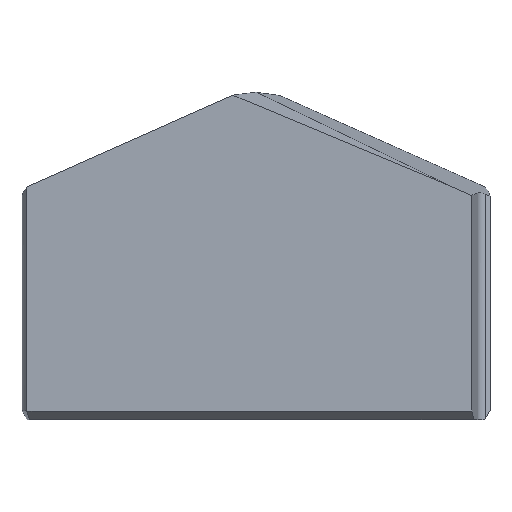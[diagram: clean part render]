
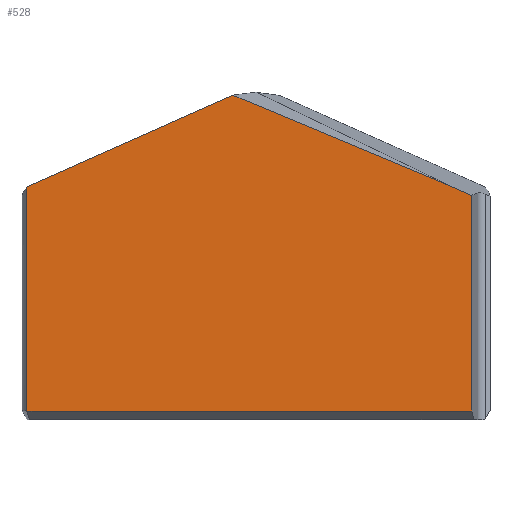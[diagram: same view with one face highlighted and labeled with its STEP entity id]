
A CAD part, top view. The second image highlights one B-rep face of the part: STEP entity #528.
In plain terms, the highlighted planar face has unit normal (0, 0, 1).
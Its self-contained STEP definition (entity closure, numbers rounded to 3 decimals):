
#7 = VECTOR ( 'NONE', #185, 1000. ) ;
#9 = CARTESIAN_POINT ( 'NONE',  ( 3.796, 9.091, 3.2 ) ) ;
#12 = CARTESIAN_POINT ( 'NONE',  ( -7.777, 0.3, 3.2 ) ) ;
#15 = EDGE_CURVE ( 'NONE', #466, #205, #327, .T. ) ;
#40 = DIRECTION ( 'NONE',  ( -0.914, 0.407, 0. ) ) ;
#48 = VECTOR ( 'NONE', #40, 1000. ) ;
#49 = VERTEX_POINT ( 'NONE', #423 ) ;
#53 = PLANE ( 'NONE',  #385 ) ;
#71 = CARTESIAN_POINT ( 'NONE',  ( -7.77, 0.289, 3.2 ) ) ;
#114 = VECTOR ( 'NONE', #394, 1000. ) ;
#118 = CARTESIAN_POINT ( 'NONE',  ( -7.777, 7.887, 3.2 ) ) ;
#129 = LINE ( 'NONE', #487, #7 ) ;
#154 = LINE ( 'NONE', #238, #114 ) ;
#159 = EDGE_CURVE ( 'NONE', #589, #549, #129, .T. ) ;
#174 = CARTESIAN_POINT ( 'NONE',  ( 7.32, 7.598, 3.2 ) ) ;
#180 = B_SPLINE_CURVE_WITH_KNOTS ( 'NONE', 3,
 ( #513, #610, #458, #71 ),
 .UNSPECIFIED., .F., .F.,
 ( 4, 4 ),
 ( 0., 0. ),
 .UNSPECIFIED. ) ;
#185 = DIRECTION ( 'NONE',  ( 0., 1., 0. ) ) ;
#191 = EDGE_CURVE ( 'NONE', #199, #315, #525, .T. ) ;
#199 = VERTEX_POINT ( 'NONE', #174 ) ;
#203 = DIRECTION ( 'NONE',  ( 1., 0., 0. ) ) ;
#205 = VERTEX_POINT ( 'NONE', #477 ) ;
#236 = VECTOR ( 'NONE', #448, 1000. ) ;
#238 = CARTESIAN_POINT ( 'NONE',  ( 7.32, 0., 3.2 ) ) ;
#251 = DIRECTION ( 'NONE',  ( 1., 0., 0. ) ) ;
#253 = DIRECTION ( 'NONE',  ( 0., 0., 1. ) ) ;
#281 = CARTESIAN_POINT ( 'NONE',  ( 4.034, 9.061, 3.2 ) ) ;
#285 = ORIENTED_EDGE ( 'NONE', *, *, #543, .T. ) ;
#286 = EDGE_CURVE ( 'NONE', #49, #549, #381, .T. ) ;
#296 = DIRECTION ( 'NONE',  ( -0.923, 0.385, 0. ) ) ;
#307 = EDGE_CURVE ( 'NONE', #205, #199, #154, .T. ) ;
#315 = VERTEX_POINT ( 'NONE', #547 ) ;
#322 = ORIENTED_EDGE ( 'NONE', *, *, #307, .T. ) ;
#327 = LINE ( 'NONE', #556, #455 ) ;
#341 = CARTESIAN_POINT ( 'NONE',  ( -7.77, 0.289, 3.2 ) ) ;
#359 = ORIENTED_EDGE ( 'NONE', *, *, #286, .T. ) ;
#381 = LINE ( 'NONE', #387, #236 ) ;
#385 = AXIS2_PLACEMENT_3D ( 'NONE', #553, #253, #203 ) ;
#387 = CARTESIAN_POINT ( 'NONE',  ( 0., 11.35, 3.2 ) ) ;
#394 = DIRECTION ( 'NONE',  ( 0., 1., 0. ) ) ;
#403 = LINE ( 'NONE', #9, #587 ) ;
#413 = EDGE_LOOP ( 'NONE', ( #496, #441, #359, #600, #285, #490, #322 ) ) ;
#423 = CARTESIAN_POINT ( 'NONE',  ( -0.781, 11.002, 3.2 ) ) ;
#441 = ORIENTED_EDGE ( 'NONE', *, *, #519, .T. ) ;
#448 = DIRECTION ( 'NONE',  ( -0.914, -0.407, 0. ) ) ;
#455 = VECTOR ( 'NONE', #251, 1000. ) ;
#458 = CARTESIAN_POINT ( 'NONE',  ( -7.773, 0.292, 3.2 ) ) ;
#466 = VERTEX_POINT ( 'NONE', #341 ) ;
#477 = CARTESIAN_POINT ( 'NONE',  ( 7.32, 0.289, 3.2 ) ) ;
#484 = FACE_OUTER_BOUND ( 'NONE', #413, .T. ) ;
#487 = CARTESIAN_POINT ( 'NONE',  ( -7.777, 0., 3.2 ) ) ;
#490 = ORIENTED_EDGE ( 'NONE', *, *, #15, .T. ) ;
#496 = ORIENTED_EDGE ( 'NONE', *, *, #191, .T. ) ;
#513 = CARTESIAN_POINT ( 'NONE',  ( -7.777, 0.3, 3.2 ) ) ;
#519 = EDGE_CURVE ( 'NONE', #315, #49, #403, .T. ) ;
#525 = LINE ( 'NONE', #281, #48 ) ;
#528 = ADVANCED_FACE ( 'NONE', ( #484 ), #53, .T. ) ;
#543 = EDGE_CURVE ( 'NONE', #589, #466, #180, .T. ) ;
#547 = CARTESIAN_POINT ( 'NONE',  ( 6.567, 7.934, 3.2 ) ) ;
#549 = VERTEX_POINT ( 'NONE', #118 ) ;
#553 = CARTESIAN_POINT ( 'NONE',  ( 0., 0., 3.2 ) ) ;
#556 = CARTESIAN_POINT ( 'NONE',  ( 7.6, 0.289, 3.2 ) ) ;
#587 = VECTOR ( 'NONE', #296, 1000. ) ;
#589 = VERTEX_POINT ( 'NONE', #12 ) ;
#600 = ORIENTED_EDGE ( 'NONE', *, *, #159, .F. ) ;
#610 = CARTESIAN_POINT ( 'NONE',  ( -7.775, 0.296, 3.2 ) ) ;
